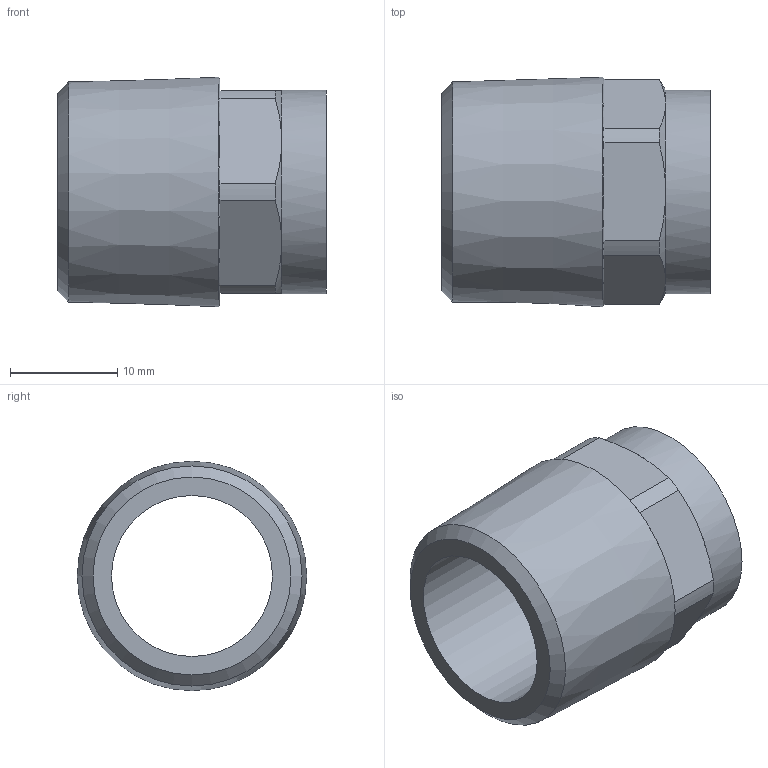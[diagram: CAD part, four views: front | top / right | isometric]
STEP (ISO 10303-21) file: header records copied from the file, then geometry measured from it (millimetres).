
FILE_DESCRIPTION((''),'2;1');
FILE_NAME('\\Lg50001\Groups\SANHA Legnica\Engineering\Public\RYSUNKI\SANHA POLSKA\4243G\step\14243_16-12(2).stp','2008-08-21T15:52:24',('pajchrowski'),(''),'Autodesk Inventor 2008','Autodesk Inventor 2008','');
FILE_SCHEMA(('AUTOMOTIVE_DESIGN { 1 0 10303 214 1 1 1 1 }'));
Length unit declared in the file: millimetre
Products named in the file (1): 14243_16-12(2)
Bounding box: 25 x 21.38 x 21.38 mm (x, y, z)
Volume: 3384.2 mm3; surface area: 3104.3 mm2
Topology: 1 solids, 1 shells, 39 faces, 82 edges, 46 vertices
Faces by surface type: plane 21, cylinder 9, cone 9
Full cylindrical faces by diameter (mm): 15 x1, 16.11 x1, 19 x1
Entity records: 996 total; most frequent: CARTESIAN_POINT 182, DIRECTION 180, ORIENTED_EDGE 148, AXIS2_PLACEMENT_3D 78, EDGE_CURVE 74, EDGE_LOOP 48, VERTEX_POINT 44, FACE_OUTER_BOUND 39
